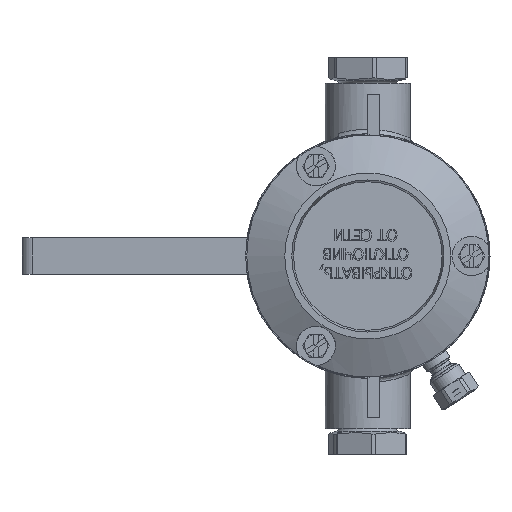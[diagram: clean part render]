
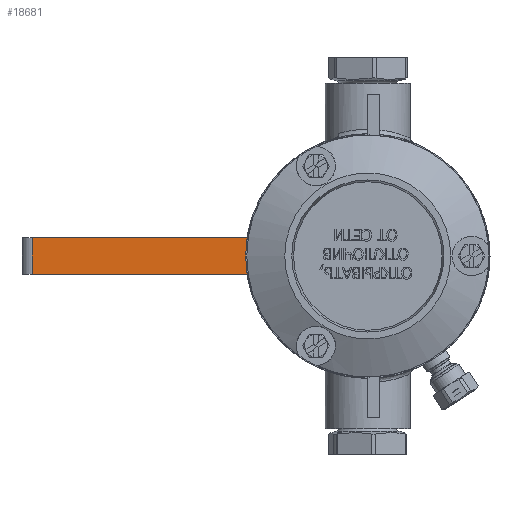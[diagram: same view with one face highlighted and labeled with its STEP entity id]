
A CAD part, left-side view. The second image highlights one B-rep face of the part: STEP entity #18681.
In plain terms, the highlighted planar face has unit normal (-1, 0, 0).
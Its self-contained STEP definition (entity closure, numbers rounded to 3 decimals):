
#1201=LINE('',#31445,#2520);
#1207=LINE('',#31456,#2526);
#1212=LINE('',#31468,#2531);
#1215=LINE('',#31473,#2534);
#1217=LINE('',#31476,#2536);
#1221=LINE('',#31491,#2540);
#2520=VECTOR('',#23267,2.828);
#2526=VECTOR('',#23275,151.5);
#2531=VECTOR('',#23284,2.828);
#2534=VECTOR('',#23289,151.5);
#2536=VECTOR('',#23293,16.);
#2540=VECTOR('',#23311,12.);
#4103=PLANE('',#20010);
#4472=FACE_BOUND('',#6588,.T.);
#5297=FACE_OUTER_BOUND('',#6587,.T.);
#6587=EDGE_LOOP('',(#15088,#15089,#15090,#15091,#15092,#15093));
#6588=EDGE_LOOP('',(#15094));
#7296=CIRCLE('',#19990,1.6);
#8652=VERTEX_POINT('',#31430);
#8657=VERTEX_POINT('',#31443);
#8658=VERTEX_POINT('',#31444);
#8662=VERTEX_POINT('',#31454);
#8666=VERTEX_POINT('',#31466);
#8667=VERTEX_POINT('',#31467);
#8668=VERTEX_POINT('',#31472);
#10880=EDGE_CURVE('',#8652,#8652,#7296,.T.);
#10885=EDGE_CURVE('',#8657,#8658,#1201,.T.);
#10891=EDGE_CURVE('',#8662,#8657,#1207,.T.);
#10896=EDGE_CURVE('',#8666,#8667,#1212,.T.);
#10899=EDGE_CURVE('',#8667,#8668,#1215,.T.);
#10901=EDGE_CURVE('',#8662,#8668,#1217,.T.);
#10909=EDGE_CURVE('',#8658,#8666,#1221,.T.);
#15088=ORIENTED_EDGE('',*,*,#10885,.F.);
#15089=ORIENTED_EDGE('',*,*,#10891,.F.);
#15090=ORIENTED_EDGE('',*,*,#10901,.T.);
#15091=ORIENTED_EDGE('',*,*,#10899,.F.);
#15092=ORIENTED_EDGE('',*,*,#10896,.F.);
#15093=ORIENTED_EDGE('',*,*,#10909,.F.);
#15094=ORIENTED_EDGE('',*,*,#10880,.T.);
#18681=ADVANCED_FACE('',(#5297,#4472),#4103,.T.);
#19990=AXIS2_PLACEMENT_3D('',#31431,#23251,#23252);
#20010=AXIS2_PLACEMENT_3D('',#31492,#23312,#23313);
#23251=DIRECTION('center_axis',(1.,0.,0.));
#23252=DIRECTION('ref_axis',(0.,0.,
1.));
#23267=DIRECTION('',(0.,-0.707,-0.707));
#23275=DIRECTION('',(0.,-1.,0.));
#23284=DIRECTION('',(0.,0.707,-0.707));
#23289=DIRECTION('',(0.,1.,0.));
#23293=DIRECTION('',(0.,0.,-1.));
#23311=DIRECTION('',(0.,0.,-1.));
#23312=DIRECTION('center_axis',(-1.,0.,0.));
#23313=DIRECTION('ref_axis',(0.,0.,-1.));
#31430=CARTESIAN_POINT('',(121.475,0.,-1.6));
#31431=CARTESIAN_POINT('Origin',(121.475,0.,
0.));
#31443=CARTESIAN_POINT('',(121.475,-6.,8.));
#31444=CARTESIAN_POINT('',(121.475,-8.,6.));
#31445=CARTESIAN_POINT('',(121.475,10.906,24.906));
#31454=CARTESIAN_POINT('',(121.475,145.5,8.));
#31456=CARTESIAN_POINT('',(121.475,145.5,8.));
#31466=CARTESIAN_POINT('',(121.475,-8.,-6.));
#31467=CARTESIAN_POINT('',(121.475,-6.,-8.));
#31468=CARTESIAN_POINT('',(121.475,10.906,-24.906));
#31472=CARTESIAN_POINT('',(121.475,145.5,-8.));
#31473=CARTESIAN_POINT('',(121.475,156.998,-8.));
#31476=CARTESIAN_POINT('',(121.475,145.5,0.));
#31491=CARTESIAN_POINT('',(121.475,-8.,8.));
#31492=CARTESIAN_POINT('Origin',(121.475,71.625,0.));
